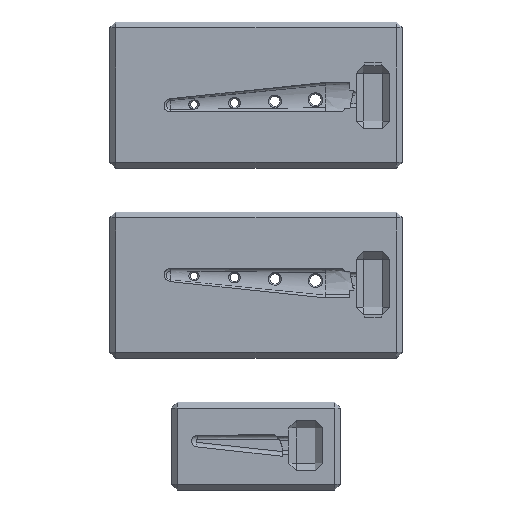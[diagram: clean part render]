
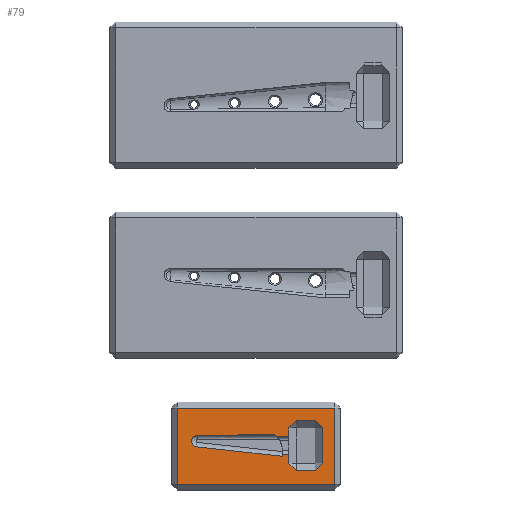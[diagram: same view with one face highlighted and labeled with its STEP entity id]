
A CAD part, top view. The second image highlights one B-rep face of the part: STEP entity #79.
In plain terms, the highlighted planar face has unit normal (0, 0, 1).
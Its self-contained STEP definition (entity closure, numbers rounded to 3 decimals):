
#18=FACE_BOUND('',#580,.T.);
#79=ADVANCED_FACE('',(#329,#18),#3565,.T.);
#329=FACE_OUTER_BOUND('',#579,.T.);
#579=EDGE_LOOP('',(#992,#993,#994,#995));
#580=EDGE_LOOP('',(#996,#997,#998,#999,#1000,#1001,#1002,#1003,#1004,#1005,
#1006,#1007,#1008,#1009,#1010,#1011));
#992=ORIENTED_EDGE('',*,*,#2061,.T.);
#993=ORIENTED_EDGE('',*,*,#2064,.F.);
#994=ORIENTED_EDGE('',*,*,#2063,.F.);
#995=ORIENTED_EDGE('',*,*,#2062,.T.);
#996=ORIENTED_EDGE('',*,*,#2027,.T.);
#997=ORIENTED_EDGE('',*,*,#2033,.T.);
#998=ORIENTED_EDGE('',*,*,#2031,.T.);
#999=ORIENTED_EDGE('',*,*,#2035,.T.);
#1000=ORIENTED_EDGE('',*,*,#2029,.T.);
#1001=ORIENTED_EDGE('',*,*,#2042,.T.);
#1002=ORIENTED_EDGE('',*,*,#2040,.T.);
#1003=ORIENTED_EDGE('',*,*,#2036,.T.);
#1004=ORIENTED_EDGE('',*,*,#2037,.T.);
#1005=ORIENTED_EDGE('',*,*,#2038,.F.);
#1006=ORIENTED_EDGE('',*,*,#2039,.T.);
#1007=ORIENTED_EDGE('',*,*,#2041,.T.);
#1008=ORIENTED_EDGE('',*,*,#2030,.T.);
#1009=ORIENTED_EDGE('',*,*,#2034,.T.);
#1010=ORIENTED_EDGE('',*,*,#2028,.T.);
#1011=ORIENTED_EDGE('',*,*,#2032,.T.);
#2027=EDGE_CURVE('',#3148,#3149,#2661,.T.);
#2028=EDGE_CURVE('',#3150,#3151,#2662,.T.);
#2029=EDGE_CURVE('',#3152,#3153,#2663,.T.);
#2030=EDGE_CURVE('',#3154,#3155,#2664,.T.);
#2031=EDGE_CURVE('',#3156,#3157,#2665,.T.);
#2032=EDGE_CURVE('',#3151,#3148,#2666,.T.);
#2033=EDGE_CURVE('',#3149,#3156,#2667,.T.);
#2034=EDGE_CURVE('',#3155,#3150,#2668,.T.);
#2035=EDGE_CURVE('',#3157,#3152,#2669,.T.);
#2036=EDGE_CURVE('',#3158,#3159,#2670,.T.);
#2037=EDGE_CURVE('',#3159,#3160,#2671,.T.);
#2038=EDGE_CURVE('',#3161,#3160,#2672,.T.);
#2039=EDGE_CURVE('',#3161,#3162,#2553,.T.);
#2040=EDGE_CURVE('',#3163,#3158,#2554,.T.);
#2041=EDGE_CURVE('',#3162,#3154,#2555,.T.);
#2042=EDGE_CURVE('',#3153,#3163,#2556,.T.);
#2061=EDGE_CURVE('',#3172,#3173,#2690,.T.);
#2062=EDGE_CURVE('',#3174,#3172,#2691,.T.);
#2063=EDGE_CURVE('',#3174,#3175,#2692,.T.);
#2064=EDGE_CURVE('',#3175,#3173,#2693,.T.);
#2553=(
BOUNDED_CURVE()
B_SPLINE_CURVE(2,(#5917,#5918,#5919),.UNSPECIFIED.,.F.,.F.)
B_SPLINE_CURVE_WITH_KNOTS((3,3),(-1.338,-1.159),
 .UNSPECIFIED.)
CURVE()
GEOMETRIC_REPRESENTATION_ITEM()
RATIONAL_B_SPLINE_CURVE((1.,0.998,1.))
REPRESENTATION_ITEM('')
);
#2554=(
BOUNDED_CURVE()
B_SPLINE_CURVE(2,(#5920,#5921,#5922),.UNSPECIFIED.,.F.,.F.)
B_SPLINE_CURVE_WITH_KNOTS((3,3),(-0.005,0.143),
 .UNSPECIFIED.)
CURVE()
GEOMETRIC_REPRESENTATION_ITEM()
RATIONAL_B_SPLINE_CURVE((1.,0.999,1.))
REPRESENTATION_ITEM('')
);
#2555=(
BOUNDED_CURVE()
B_SPLINE_CURVE(1,(#5923,#5924),.UNSPECIFIED.,.F.,.F.)
B_SPLINE_CURVE_WITH_KNOTS((2,2),(-1.484,-0.65),
 .UNSPECIFIED.)
CURVE()
GEOMETRIC_REPRESENTATION_ITEM()
RATIONAL_B_SPLINE_CURVE((1.,1.))
REPRESENTATION_ITEM('')
);
#2556=(
BOUNDED_CURVE()
B_SPLINE_CURVE(1,(#5925,#5926),.UNSPECIFIED.,.F.,.F.)
B_SPLINE_CURVE_WITH_KNOTS((2,2),(0.65,1.084),
 .UNSPECIFIED.)
CURVE()
GEOMETRIC_REPRESENTATION_ITEM()
RATIONAL_B_SPLINE_CURVE((1.,1.))
REPRESENTATION_ITEM('')
);
#2661=B_SPLINE_CURVE_WITH_KNOTS('',1,(#5869,#5870),.UNSPECIFIED.,.F.,.F.,
(2,2),(-2.93,-0.5),.UNSPECIFIED.);
#2662=B_SPLINE_CURVE_WITH_KNOTS('',1,(#5871,#5872),.UNSPECIFIED.,.F.,.F.,
(2,2),(22.08,23.38),.UNSPECIFIED.);
#2663=B_SPLINE_CURVE_WITH_KNOTS('',1,(#5873,#5874),.UNSPECIFIED.,.F.,.F.,
(2,2),(-8.66,-8.025),.UNSPECIFIED.);
#2664=B_SPLINE_CURVE_WITH_KNOTS('',1,(#5875,#5876),.UNSPECIFIED.,.F.,.F.,
(2,2),(-6.845,-6.23),.UNSPECIFIED.);
#2665=B_SPLINE_CURVE_WITH_KNOTS('',1,(#5877,#5878),.UNSPECIFIED.,.F.,.F.,
(2,2),(-23.38,-22.08),.UNSPECIFIED.);
#2666=B_SPLINE_CURVE_WITH_KNOTS('',1,(#5879,#5880),.UNSPECIFIED.,.F.,.F.,
(2,2),(-1.,0.),.UNSPECIFIED.);
#2667=B_SPLINE_CURVE_WITH_KNOTS('',1,(#5881,#5882),.UNSPECIFIED.,.F.,.F.,
(2,2),(0.,1.),.UNSPECIFIED.);
#2668=B_SPLINE_CURVE_WITH_KNOTS('',1,(#5883,#5884),.UNSPECIFIED.,.F.,.F.,
(2,2),(-1.,0.),.UNSPECIFIED.);
#2669=B_SPLINE_CURVE_WITH_KNOTS('',1,(#5885,#5886),.UNSPECIFIED.,.F.,.F.,
(2,2),(-1.,0.),.UNSPECIFIED.);
#2670=B_SPLINE_CURVE_WITH_KNOTS('',3,(#5887,#5888,#5889,#5890),
 .UNSPECIFIED.,.F.,.F.,(4,4),(0.009,5.907),
 .UNSPECIFIED.);
#2671=B_SPLINE_CURVE_WITH_KNOTS('',3,(#5891,#5892,#5893,#5894,#5895,#5896,
#5897,#5898,#5899,#5900,#5901,#5902,#5903),.UNSPECIFIED.,.F.,.F.,(4,3,3,
3,4),(0.,0.306,0.599,0.893,
1.2),.UNSPECIFIED.);
#2672=B_SPLINE_CURVE_WITH_KNOTS('',3,(#5904,#5905,#5906,#5907,#5908,#5909,
#5910,#5911,#5912,#5913,#5914,#5915,#5916),.UNSPECIFIED.,.F.,.F.,(4,3,3,
3,4),(0.,1.389,2.17,4.145,5.303),
 .UNSPECIFIED.);
#2690=B_SPLINE_CURVE_WITH_KNOTS('',1,(#5975,#5976),.UNSPECIFIED.,.F.,.F.,
(2,2),(0.4,11.15),.UNSPECIFIED.);
#2691=B_SPLINE_CURVE_WITH_KNOTS('',1,(#5977,#5978),.UNSPECIFIED.,.F.,.F.,
(2,2),(0.4,5.6),.UNSPECIFIED.);
#2692=B_SPLINE_CURVE_WITH_KNOTS('',1,(#5979,#5980),.UNSPECIFIED.,.F.,.F.,
(2,2),(0.4,11.15),.UNSPECIFIED.);
#2693=B_SPLINE_CURVE_WITH_KNOTS('',1,(#5981,#5982),.UNSPECIFIED.,.F.,.F.,
(2,2),(0.4,5.6),.UNSPECIFIED.);
#3148=VERTEX_POINT('',#5424);
#3149=VERTEX_POINT('',#5425);
#3150=VERTEX_POINT('',#5426);
#3151=VERTEX_POINT('',#5427);
#3152=VERTEX_POINT('',#5428);
#3153=VERTEX_POINT('',#5429);
#3154=VERTEX_POINT('',#5430);
#3155=VERTEX_POINT('',#5431);
#3156=VERTEX_POINT('',#5432);
#3157=VERTEX_POINT('',#5433);
#3158=VERTEX_POINT('',#5434);
#3159=VERTEX_POINT('',#5435);
#3160=VERTEX_POINT('',#5436);
#3161=VERTEX_POINT('',#5437);
#3162=VERTEX_POINT('',#5438);
#3163=VERTEX_POINT('',#5439);
#3172=VERTEX_POINT('',#5448);
#3173=VERTEX_POINT('',#5449);
#3174=VERTEX_POINT('',#5450);
#3175=VERTEX_POINT('',#5451);
#3565=PLANE('',#3780);
#3780=AXIS2_PLACEMENT_3D('',#4098,#3939,$);
#3939=DIRECTION('',(0.,0.,1.));
#4098=CARTESIAN_POINT('',(-5.78,-14.,2.));
#5424=CARTESIAN_POINT('',(4.55,-9.75,2.));
#5425=CARTESIAN_POINT('',(4.55,-12.18,2.));
#5426=CARTESIAN_POINT('',(2.75,-9.25,2.));
#5427=CARTESIAN_POINT('',(4.05,-9.25,2.));
#5428=CARTESIAN_POINT('',(2.25,-12.18,2.));
#5429=CARTESIAN_POINT('',(2.25,-11.545,2.));
#5430=CARTESIAN_POINT('',(2.25,-10.365,2.));
#5431=CARTESIAN_POINT('',(2.25,-9.75,2.));
#5432=CARTESIAN_POINT('',(4.05,-12.68,2.));
#5433=CARTESIAN_POINT('',(2.75,-12.68,2.));
#5434=CARTESIAN_POINT('',(1.795,-11.7,2.));
#5435=CARTESIAN_POINT('',(-4.068,-11.052,2.));
#5436=CARTESIAN_POINT('',(-4.024,-10.253,2.));
#5437=CARTESIAN_POINT('',(1.279,-10.232,2.));
#5438=CARTESIAN_POINT('',(1.416,-10.365,2.));
#5439=CARTESIAN_POINT('',(1.816,-11.545,2.));
#5448=CARTESIAN_POINT('',(-5.38,-13.6,2.));
#5449=CARTESIAN_POINT('',(5.37,-13.6,2.));
#5450=CARTESIAN_POINT('',(-5.38,-8.4,2.));
#5451=CARTESIAN_POINT('',(5.37,-8.4,2.));
#5869=CARTESIAN_POINT('',(4.55,-9.75,2.));
#5870=CARTESIAN_POINT('',(4.55,-12.18,2.));
#5871=CARTESIAN_POINT('',(2.75,-9.25,2.));
#5872=CARTESIAN_POINT('',(4.05,-9.25,2.));
#5873=CARTESIAN_POINT('',(2.25,-12.18,2.));
#5874=CARTESIAN_POINT('',(2.25,-11.545,2.));
#5875=CARTESIAN_POINT('',(2.25,-10.365,2.));
#5876=CARTESIAN_POINT('',(2.25,-9.75,2.));
#5877=CARTESIAN_POINT('',(4.05,-12.68,2.));
#5878=CARTESIAN_POINT('',(2.75,-12.68,2.));
#5879=CARTESIAN_POINT('',(4.05,-9.25,2.));
#5880=CARTESIAN_POINT('',(4.55,-9.75,2.));
#5881=CARTESIAN_POINT('',(4.55,-12.18,2.));
#5882=CARTESIAN_POINT('',(4.05,-12.68,2.));
#5883=CARTESIAN_POINT('',(2.25,-9.75,2.));
#5884=CARTESIAN_POINT('',(2.75,-9.25,2.));
#5885=CARTESIAN_POINT('',(2.75,-12.68,2.));
#5886=CARTESIAN_POINT('',(2.25,-12.18,2.));
#5887=CARTESIAN_POINT('',(1.795,-11.7,2.));
#5888=CARTESIAN_POINT('',(-0.16,-11.489,2.));
#5889=CARTESIAN_POINT('',(-2.114,-11.273,2.));
#5890=CARTESIAN_POINT('',(-4.068,-11.052,2.));
#5891=CARTESIAN_POINT('',(-4.068,-11.052,2.));
#5892=CARTESIAN_POINT('',(-4.167,-11.035,2.));
#5893=CARTESIAN_POINT('',(-4.256,-10.982,2.));
#5894=CARTESIAN_POINT('',(-4.318,-10.902,2.));
#5895=CARTESIAN_POINT('',(-4.378,-10.825,2.));
#5896=CARTESIAN_POINT('',(-4.407,-10.731,2.));
#5897=CARTESIAN_POINT('',(-4.402,-10.634,2.));
#5898=CARTESIAN_POINT('',(-4.397,-10.537,2.));
#5899=CARTESIAN_POINT('',(-4.357,-10.446,2.));
#5900=CARTESIAN_POINT('',(-4.29,-10.376,2.));
#5901=CARTESIAN_POINT('',(-4.22,-10.303,2.));
#5902=CARTESIAN_POINT('',(-4.125,-10.259,2.));
#5903=CARTESIAN_POINT('',(-4.024,-10.253,2.));
#5904=CARTESIAN_POINT('',(1.279,-10.232,2.));
#5905=CARTESIAN_POINT('',(0.816,-10.233,2.));
#5906=CARTESIAN_POINT('',(0.353,-10.234,2.));
#5907=CARTESIAN_POINT('',(-0.11,-10.235,2.));
#5908=CARTESIAN_POINT('',(-0.37,-10.236,2.));
#5909=CARTESIAN_POINT('',(-0.631,-10.237,2.));
#5910=CARTESIAN_POINT('',(-0.891,-10.238,2.));
#5911=CARTESIAN_POINT('',(-1.549,-10.24,2.));
#5912=CARTESIAN_POINT('',(-2.208,-10.243,2.));
#5913=CARTESIAN_POINT('',(-2.866,-10.246,2.));
#5914=CARTESIAN_POINT('',(-3.252,-10.248,2.));
#5915=CARTESIAN_POINT('',(-3.638,-10.25,2.));
#5916=CARTESIAN_POINT('',(-4.024,-10.253,2.));
#5917=CARTESIAN_POINT('',(1.279,-10.232,2.));
#5918=CARTESIAN_POINT('',(1.352,-10.294,2.));
#5919=CARTESIAN_POINT('',(1.416,-10.365,2.));
#5920=CARTESIAN_POINT('',(1.816,-11.545,2.));
#5921=CARTESIAN_POINT('',(1.809,-11.623,2.));
#5922=CARTESIAN_POINT('',(1.795,-11.7,2.));
#5923=CARTESIAN_POINT('',(1.416,-10.365,2.));
#5924=CARTESIAN_POINT('',(2.25,-10.365,2.));
#5925=CARTESIAN_POINT('',(2.25,-11.545,2.));
#5926=CARTESIAN_POINT('',(1.816,-11.545,2.));
#5975=CARTESIAN_POINT('',(-5.38,-13.6,2.));
#5976=CARTESIAN_POINT('',(5.37,-13.6,2.));
#5977=CARTESIAN_POINT('',(-5.38,-8.4,2.));
#5978=CARTESIAN_POINT('',(-5.38,-13.6,2.));
#5979=CARTESIAN_POINT('',(-5.38,-8.4,2.));
#5980=CARTESIAN_POINT('',(5.37,-8.4,2.));
#5981=CARTESIAN_POINT('',(5.37,-8.4,2.));
#5982=CARTESIAN_POINT('',(5.37,-13.6,2.));
